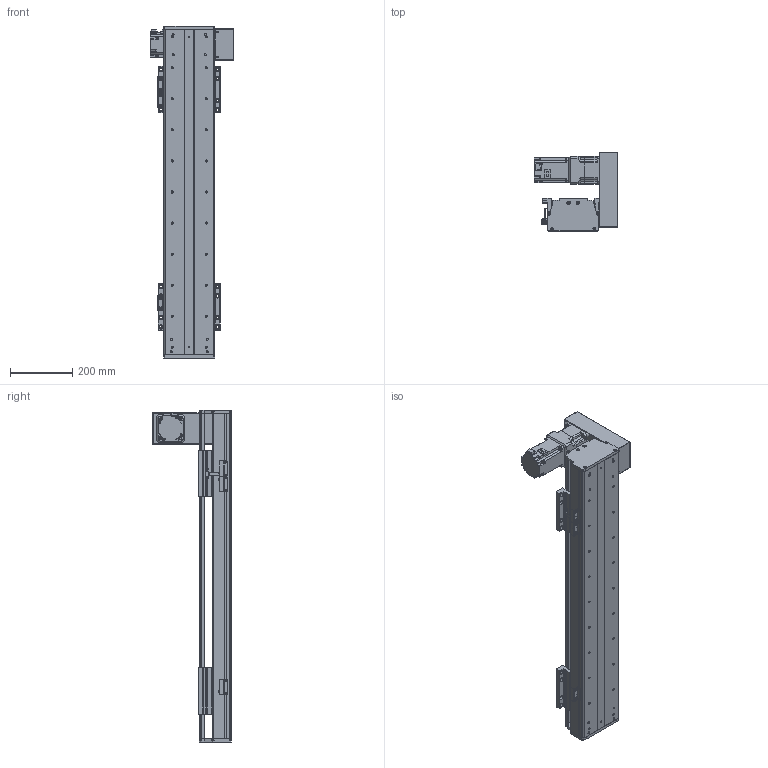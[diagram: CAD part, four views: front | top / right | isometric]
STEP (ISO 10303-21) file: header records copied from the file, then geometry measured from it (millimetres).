
FILE_DESCRIPTION(/* description */ (''),/* implementation_level */ '2;1');
FILE_NAME(/* name */ 'C:\Users\PC\Desktop\3D도면\STEP\새 폴더\DSB165-UR7G-W0700-L.stp',/* time_stamp */ '2018-06-25T15:15:29+09:00',/* author */ ('PC'),/* organization */ (''),/* preprocessor_version */ 'ST-DEVELOPER v16.5',/* originating_system */ 'Autodesk Inventor 2017',/* authorisation */ '');
FILE_SCHEMA (('AUTOMOTIVE_DESIGN { 1 0 10303 214 3 1 1 }'));
Length unit declared in the file: millimetre
Products named in the file (12): DSB165-UL7G-W0700-R_MIR; DSB165-BASE-L_MIR; hg-kr73__MIR; ab0901-p0401300102_MIR; 11-DSB165 BELT COVER_MIR; 12-DSB165-REAR COVER_MIR; 14-DSB165-FRONT COVER_MIR; DSB165-UP COVER_MIR; DSR165-SENSOR DOG_MIR; pm-y65_step_MIR; SENSOR BRACKET(EE-SX674A)_MIR; DSB165-TABLE(MSB20S)_MIR
Assembly tree (16 placements, depth 2):
  DSB165-UL7G-W0700-R_MIR
    DSB165-BASE-L_MIR
    hg-kr73__MIR
    ab0901-p0401300102_MIR
    11-DSB165 BELT COVER_MIR
    12-DSB165-REAR COVER_MIR
    14-DSB165-FRONT COVER_MIR
    DSB165-UP COVER_MIR
    DSR165-SENSOR DOG_MIR
    pm-y65_step_MIR  x3
    SENSOR BRACKET(EE-SX674A)_MIR  x3
    DSB165-TABLE(MSB20S)_MIR  x2
Bounding box: 270 x 254 x 1070 mm (x, y, z)
Volume: 7495708.4 mm3; surface area: 1727465.8 mm2
Topology: 17 solids, 17 shells, 1657 faces, 4454 edges, 2936 vertices
Faces by surface type: plane 921, cylinder 614, cone 110, sphere 8, torus 4
Full cylindrical faces by diameter (mm): 2.459 x20, 3.5 x6, 4.134 x42, 4.5 x18, 5 x27, 5.5 x36, 5.9 x4, 6 x4, 6.6 x14, 6.647 x38, 6.8 x1, 7 x4, 7.6 x4, 8.4 x1, 8.5 x24, 8.7 x1, 9.5 x32, 11 x6, 14 x16, 19 x1, 22 x1, 24 x1, 25 x1, 28 x1, 67 x1, 70 x2, 80 x1
Entity records: 35920 total; most frequent: DIRECTION 6218, CARTESIAN_POINT 6039, ORIENTED_EDGE 5514, EDGE_CURVE 2757, AXIS2_PLACEMENT_3D 2279, VERTEX_POINT 1962, EDGE_LOOP 1711, LINE 1660
